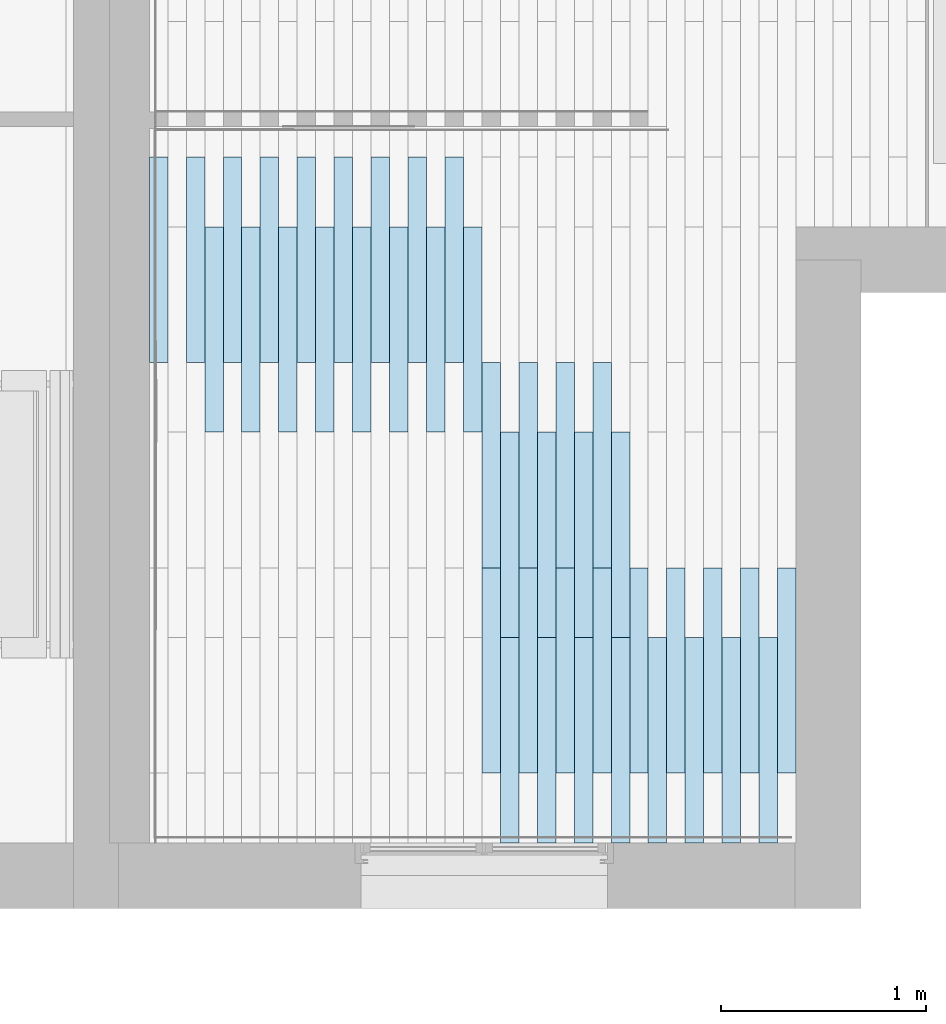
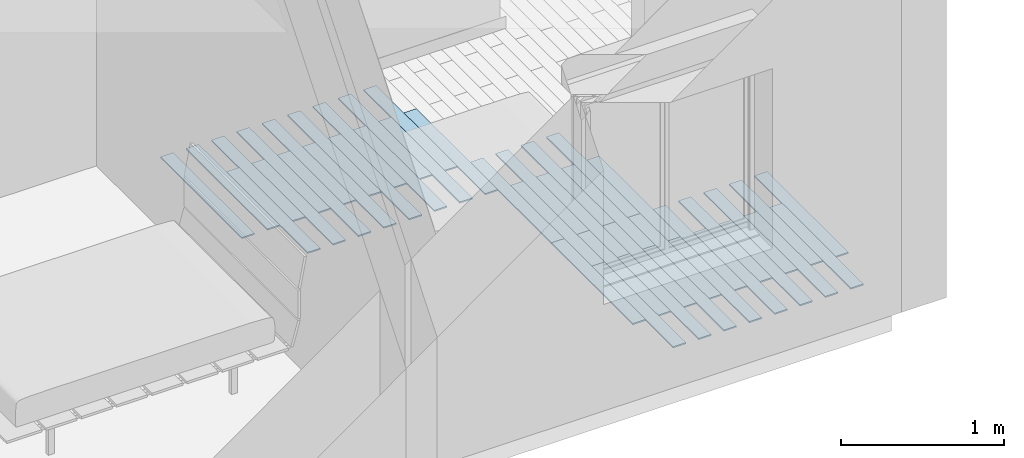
# One storey, part 2 of 61: 42 slabs.
"""IFC2X3 building model written with IfcOpenShell, lengths in metres."""

from ifc_helpers import new_model, entity, si_unit, converted_unit, derived_unit, direction, frame, frame_2d, origin, place, context, subcontext, project, spatial, rectangle, extrude, material, layer, layer_set, layer_usage, type_object, element, save


model = new_model("IFC2X3")

# Units and contexts
model_context = context("Model", 3, precision=1e-05, world=origin(), true_north=direction((6.12303176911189e-17, 1.0)))
body_context = subcontext(model_context, "Body", "Model", "MODEL_VIEW")
ifc_project = project(units=[si_unit("LENGTHUNIT", "METRE"), si_unit("AREAUNIT", "SQUARE_METRE"), si_unit("VOLUMEUNIT", "CUBIC_METRE"), converted_unit("PLANEANGLEUNIT", "DEGREE", entity("IfcRatioMeasure", 0.0174532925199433), si_unit("PLANEANGLEUNIT", "RADIAN"), dimensions=[0, 0, 0, 0, 0, 0, 0]), si_unit("MASSUNIT", "GRAM", prefix="KILO"), derived_unit("MASSDENSITYUNIT", [(si_unit("MASSUNIT", "GRAM", prefix="KILO"), 1), (si_unit("LENGTHUNIT", "METRE"), -3)]), si_unit("TIMEUNIT", "SECOND"), si_unit("FREQUENCYUNIT", "HERTZ"), si_unit("THERMODYNAMICTEMPERATUREUNIT", "DEGREE_CELSIUS"), derived_unit("THERMALTRANSMITTANCEUNIT", [(si_unit("MASSUNIT", "GRAM", prefix="KILO"), 1), (si_unit("THERMODYNAMICTEMPERATUREUNIT", "KELVIN"), -1), (si_unit("TIMEUNIT", "SECOND"), -3)]), derived_unit("VOLUMETRICFLOWRATEUNIT", [(si_unit("LENGTHUNIT", "METRE"), 3), (si_unit("TIMEUNIT", "SECOND"), -1)]), si_unit("ELECTRICCURRENTUNIT", "AMPERE"), si_unit("ELECTRICVOLTAGEUNIT", "VOLT"), si_unit("POWERUNIT", "WATT"), si_unit("FORCEUNIT", "NEWTON", prefix="KILO"), si_unit("ILLUMINANCEUNIT", "LUX"), si_unit("LUMINOUSFLUXUNIT", "LUMEN"), si_unit("LUMINOUSINTENSITYUNIT", "CANDELA"), derived_unit("USERDEFINED", [(si_unit("MASSUNIT", "GRAM", prefix="KILO"), -1), (si_unit("LENGTHUNIT", "METRE"), -2), (si_unit("TIMEUNIT", "SECOND"), 3), (si_unit("LUMINOUSFLUXUNIT", "LUMEN"), 1)]), derived_unit("LINEARVELOCITYUNIT", [(si_unit("LENGTHUNIT", "METRE"), 1), (si_unit("TIMEUNIT", "SECOND"), -1)]), si_unit("PRESSUREUNIT", "PASCAL"), derived_unit("USERDEFINED", [(si_unit("LENGTHUNIT", "METRE"), -2), (si_unit("MASSUNIT", "GRAM", prefix="KILO"), 1), (si_unit("TIMEUNIT", "SECOND"), -2)])], contexts=[model_context])

# Site, building, storey
site_placement = place(None, origin())
site = spatial("IfcSite", under=ifc_project, at=site_placement, Name="Surface", CompositionType="ELEMENT")
building_placement = place(site_placement, origin())
building = spatial("IfcBuilding", under=site, at=building_placement, CompositionType="ELEMENT")
storey_placement = place(building_placement, frame((0.0, 0.0, 2.82)))
storey = spatial("IfcBuildingStorey", under=building, at=storey_placement, Name="ETAGE", CompositionType="ELEMENT", Elevation=2.82)

# Slabs
ifc_material = material(Name="PARQUET BAMBOU")
ifc_layer = layer(ifc_material, 0.01)
ifc_layer_set = layer_set([ifc_layer], Name="Sol:LAME DE BAMBOU")
ifc_layer_usage_1 = layer_usage(ifc_layer_set, "AXIS3", "POSITIVE", 0.0)
slab_type_1 = type_object("IfcSlabType", Name="Sol:LAME DE BAMBOU", PredefinedType="FLOOR", material=ifc_layer_set)
slab_1_placement = place(storey_placement, origin())
element("IfcSlab", 1, at=slab_1_placement, inside=storey, type_object=slab_type_1, material=ifc_layer_usage_1, Name="Sol:LAME DE BAMBOU", ObjectType="Sol:LAME DE BAMBOU", PredefinedType="FLOOR", context=body_context, shape_type="SweptSolid", body=[
    extrude(rectangle(XDim=0.999999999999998, YDim=0.0899999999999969, at=frame_2d((8.68749516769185e-15, 8.66320903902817e-15), x_axis=(1.0, 0.0))), frame((84.1260898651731, 84.0875239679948, 0.05), z_axis=(0.0, 0.0, -1.0), x_axis=(0.0, 1.0, 0.0)), (0.0, 0.0, 1.0), 0.00999999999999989),
])
ifc_layer_usage_2 = layer_usage(ifc_layer_set, "AXIS3", "POSITIVE", 0.0)
slab_type_2 = type_object("IfcSlabType", Name="Sol:LAME DE BAMBOU", PredefinedType="FLOOR", material=ifc_layer_set)
slab_2_placement = place(storey_placement, origin())
element("IfcSlab", 2, at=slab_2_placement, inside=storey, type_object=slab_type_2, material=ifc_layer_usage_2, Name="Sol:LAME DE BAMBOU", ObjectType="Sol:LAME DE BAMBOU", PredefinedType="FLOOR", context=body_context, shape_type="SweptSolid", body=[
    extrude(rectangle(XDim=0.999999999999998, YDim=0.0899999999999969, at=frame_2d((8.68749516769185e-15, -8.66320903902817e-15), x_axis=(1.0, 0.0))), frame((84.2160898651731, 83.7475239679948, 0.05), z_axis=(0.0, 0.0, -1.0), x_axis=(0.0, 1.0, 0.0)), (0.0, 0.0, 1.0), 0.00999999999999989),
])
ifc_layer_usage_3 = layer_usage(ifc_layer_set, "AXIS3", "POSITIVE", 0.0)
slab_type_3 = type_object("IfcSlabType", Name="Sol:LAME DE BAMBOU", PredefinedType="FLOOR", material=ifc_layer_set)
slab_3_placement = place(storey_placement, origin())
element("IfcSlab", 3, at=slab_3_placement, inside=storey, type_object=slab_type_3, material=ifc_layer_usage_3, Name="Sol:LAME DE BAMBOU", ObjectType="Sol:LAME DE BAMBOU", PredefinedType="FLOOR", context=body_context, shape_type="SweptSolid", body=[
    extrude(rectangle(XDim=0.999999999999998, YDim=0.0899999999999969, at=frame_2d((8.68749516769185e-15, 8.66320903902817e-15), x_axis=(1.0, 0.0))), frame((84.3060898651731, 84.0875239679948, 0.05), z_axis=(0.0, 0.0, -1.0), x_axis=(0.0, 1.0, 0.0)), (0.0, 0.0, 1.0), 0.00999999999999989),
])
ifc_layer_usage_4 = layer_usage(ifc_layer_set, "AXIS3", "POSITIVE", 0.0)
slab_type_4 = type_object("IfcSlabType", Name="Sol:LAME DE BAMBOU", PredefinedType="FLOOR", material=ifc_layer_set)
slab_4_placement = place(storey_placement, origin())
element("IfcSlab", 4, at=slab_4_placement, inside=storey, type_object=slab_type_4, material=ifc_layer_usage_4, Name="Sol:LAME DE BAMBOU", ObjectType="Sol:LAME DE BAMBOU", PredefinedType="FLOOR", context=body_context, shape_type="SweptSolid", body=[
    extrude(rectangle(XDim=0.999999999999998, YDim=0.0899999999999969, at=frame_2d((8.68749516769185e-15, 8.66320903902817e-15), x_axis=(1.0, 0.0))), frame((84.3960898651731, 83.7475239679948, 0.05), z_axis=(0.0, 0.0, -1.0), x_axis=(0.0, 1.0, 0.0)), (0.0, 0.0, 1.0), 0.00999999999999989),
])
ifc_layer_usage_5 = layer_usage(ifc_layer_set, "AXIS3", "POSITIVE", 0.0)
slab_type_5 = type_object("IfcSlabType", Name="Sol:LAME DE BAMBOU", PredefinedType="FLOOR", material=ifc_layer_set)
slab_5_placement = place(storey_placement, origin())
element("IfcSlab", 5, at=slab_5_placement, inside=storey, type_object=slab_type_5, material=ifc_layer_usage_5, Name="Sol:LAME DE BAMBOU", ObjectType="Sol:LAME DE BAMBOU", PredefinedType="FLOOR", context=body_context, shape_type="SweptSolid", body=[
    extrude(rectangle(XDim=0.999999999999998, YDim=0.0899999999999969, at=frame_2d((8.68749516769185e-15, 8.66320903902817e-15), x_axis=(1.0, 0.0))), frame((84.4860898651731, 84.0875239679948, 0.05), z_axis=(0.0, 0.0, -1.0), x_axis=(0.0, 1.0, 0.0)), (0.0, 0.0, 1.0), 0.00999999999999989),
])
ifc_layer_usage_6 = layer_usage(ifc_layer_set, "AXIS3", "POSITIVE", 0.0)
slab_type_6 = type_object("IfcSlabType", Name="Sol:LAME DE BAMBOU", PredefinedType="FLOOR", material=ifc_layer_set)
slab_6_placement = place(storey_placement, origin())
element("IfcSlab", 6, at=slab_6_placement, inside=storey, type_object=slab_type_6, material=ifc_layer_usage_6, Name="Sol:LAME DE BAMBOU", ObjectType="Sol:LAME DE BAMBOU", PredefinedType="FLOOR", context=body_context, shape_type="SweptSolid", body=[
    extrude(rectangle(XDim=0.999999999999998, YDim=0.0899999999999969, at=frame_2d((8.68749516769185e-15, -8.66320903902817e-15), x_axis=(1.0, 0.0))), frame((84.5760898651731, 83.7475239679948, 0.05), z_axis=(0.0, 0.0, -1.0), x_axis=(0.0, 1.0, 0.0)), (0.0, 0.0, 1.0), 0.00999999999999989),
])
ifc_layer_usage_7 = layer_usage(ifc_layer_set, "AXIS3", "POSITIVE", 0.0)
slab_type_7 = type_object("IfcSlabType", Name="Sol:LAME DE BAMBOU", PredefinedType="FLOOR", material=ifc_layer_set)
slab_7_placement = place(storey_placement, origin())
element("IfcSlab", 7, at=slab_7_placement, inside=storey, type_object=slab_type_7, material=ifc_layer_usage_7, Name="Sol:LAME DE BAMBOU", ObjectType="Sol:LAME DE BAMBOU", PredefinedType="FLOOR", context=body_context, shape_type="SweptSolid", body=[
    extrude(rectangle(XDim=0.999999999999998, YDim=0.0899999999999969, at=frame_2d((8.68749516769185e-15, 8.66320903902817e-15), x_axis=(1.0, 0.0))), frame((84.6660898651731, 84.0875239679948, 0.05), z_axis=(0.0, 0.0, -1.0), x_axis=(0.0, 1.0, 0.0)), (0.0, 0.0, 1.0), 0.00999999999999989),
])
ifc_layer_usage_8 = layer_usage(ifc_layer_set, "AXIS3", "POSITIVE", 0.0)
slab_type_8 = type_object("IfcSlabType", Name="Sol:LAME DE BAMBOU", PredefinedType="FLOOR", material=ifc_layer_set)
slab_8_placement = place(storey_placement, origin())
element("IfcSlab", 8, at=slab_8_placement, inside=storey, type_object=slab_type_8, material=ifc_layer_usage_8, Name="Sol:LAME DE BAMBOU", ObjectType="Sol:LAME DE BAMBOU", PredefinedType="FLOOR", context=body_context, shape_type="SweptSolid", body=[
    extrude(rectangle(XDim=0.999999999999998, YDim=0.0899999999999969, at=frame_2d((8.68749516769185e-15, 8.66320903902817e-15), x_axis=(1.0, 0.0))), frame((84.7560898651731, 83.7475239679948, 0.05), z_axis=(0.0, 0.0, -1.0), x_axis=(0.0, 1.0, 0.0)), (0.0, 0.0, 1.0), 0.00999999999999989),
])
ifc_layer_usage_9 = layer_usage(ifc_layer_set, "AXIS3", "POSITIVE", 0.0)
slab_type_9 = type_object("IfcSlabType", Name="Sol:LAME DE BAMBOU", PredefinedType="FLOOR", material=ifc_layer_set)
slab_9_placement = place(storey_placement, origin())
element("IfcSlab", 9, at=slab_9_placement, inside=storey, type_object=slab_type_9, material=ifc_layer_usage_9, Name="Sol:LAME DE BAMBOU", ObjectType="Sol:LAME DE BAMBOU", PredefinedType="FLOOR", context=body_context, shape_type="SweptSolid", body=[
    extrude(rectangle(XDim=0.999999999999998, YDim=0.0899999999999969, at=frame_2d((8.68749516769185e-15, 8.66320903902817e-15), x_axis=(1.0, 0.0))), frame((84.8460898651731, 84.0875239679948, 0.05), z_axis=(0.0, 0.0, -1.0), x_axis=(0.0, 1.0, 0.0)), (0.0, 0.0, 1.0), 0.00999999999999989),
])
ifc_layer_usage_10 = layer_usage(ifc_layer_set, "AXIS3", "POSITIVE", 0.0)
slab_type_10 = type_object("IfcSlabType", Name="Sol:LAME DE BAMBOU", PredefinedType="FLOOR", material=ifc_layer_set)
slab_10_placement = place(storey_placement, origin())
element("IfcSlab", 10, at=slab_10_placement, inside=storey, type_object=slab_type_10, material=ifc_layer_usage_10, Name="Sol:LAME DE BAMBOU", ObjectType="Sol:LAME DE BAMBOU", PredefinedType="FLOOR", context=body_context, shape_type="SweptSolid", body=[
    extrude(rectangle(XDim=0.999999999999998, YDim=0.0899999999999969, at=frame_2d((8.68749516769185e-15, -8.66320903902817e-15), x_axis=(1.0, 0.0))), frame((84.9360898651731, 83.7475239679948, 0.05), z_axis=(0.0, 0.0, -1.0), x_axis=(0.0, 1.0, 0.0)), (0.0, 0.0, 1.0), 0.00999999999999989),
])
ifc_layer_usage_11 = layer_usage(ifc_layer_set, "AXIS3", "POSITIVE", 0.0)
slab_type_11 = type_object("IfcSlabType", Name="Sol:LAME DE BAMBOU", PredefinedType="FLOOR", material=ifc_layer_set)
slab_11_placement = place(storey_placement, origin())
element("IfcSlab", 11, at=slab_11_placement, inside=storey, type_object=slab_type_11, material=ifc_layer_usage_11, Name="Sol:LAME DE BAMBOU", ObjectType="Sol:LAME DE BAMBOU", PredefinedType="FLOOR", context=body_context, shape_type="SweptSolid", body=[
    extrude(rectangle(XDim=0.999999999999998, YDim=0.0899999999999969, at=frame_2d((8.68749516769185e-15, 8.66320903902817e-15), x_axis=(1.0, 0.0))), frame((85.026089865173, 84.0875239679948, 0.05), z_axis=(0.0, 0.0, -1.0), x_axis=(0.0, 1.0, 0.0)), (0.0, 0.0, 1.0), 0.00999999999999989),
])
ifc_layer_usage_12 = layer_usage(ifc_layer_set, "AXIS3", "POSITIVE", 0.0)
slab_type_12 = type_object("IfcSlabType", Name="Sol:LAME DE BAMBOU", PredefinedType="FLOOR", material=ifc_layer_set)
slab_12_placement = place(storey_placement, origin())
element("IfcSlab", 12, at=slab_12_placement, inside=storey, type_object=slab_type_12, material=ifc_layer_usage_12, Name="Sol:LAME DE BAMBOU", ObjectType="Sol:LAME DE BAMBOU", PredefinedType="FLOOR", context=body_context, shape_type="SweptSolid", body=[
    extrude(rectangle(XDim=0.999999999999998, YDim=0.0899999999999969, at=frame_2d((8.68749516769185e-15, 8.66320903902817e-15), x_axis=(1.0, 0.0))), frame((85.116089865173, 83.7475239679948, 0.05), z_axis=(0.0, 0.0, -1.0), x_axis=(0.0, 1.0, 0.0)), (0.0, 0.0, 1.0), 0.00999999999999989),
])
ifc_layer_usage_13 = layer_usage(ifc_layer_set, "AXIS3", "POSITIVE", 0.0)
slab_type_13 = type_object("IfcSlabType", Name="Sol:LAME DE BAMBOU", PredefinedType="FLOOR", material=ifc_layer_set)
slab_13_placement = place(storey_placement, origin())
element("IfcSlab", 13, at=slab_13_placement, inside=storey, type_object=slab_type_13, material=ifc_layer_usage_13, Name="Sol:LAME DE BAMBOU", ObjectType="Sol:LAME DE BAMBOU", PredefinedType="FLOOR", context=body_context, shape_type="SweptSolid", body=[
    extrude(rectangle(XDim=0.999999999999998, YDim=0.0899999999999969, at=frame_2d((8.68749516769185e-15, 8.66320903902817e-15), x_axis=(1.0, 0.0))), frame((85.206089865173, 84.0875239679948, 0.05), z_axis=(0.0, 0.0, -1.0), x_axis=(0.0, 1.0, 0.0)), (0.0, 0.0, 1.0), 0.00999999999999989),
])
ifc_layer_usage_14 = layer_usage(ifc_layer_set, "AXIS3", "POSITIVE", 0.0)
slab_type_14 = type_object("IfcSlabType", Name="Sol:LAME DE BAMBOU", PredefinedType="FLOOR", material=ifc_layer_set)
slab_14_placement = place(storey_placement, origin())
element("IfcSlab", 14, at=slab_14_placement, inside=storey, type_object=slab_type_14, material=ifc_layer_usage_14, Name="Sol:LAME DE BAMBOU", ObjectType="Sol:LAME DE BAMBOU", PredefinedType="FLOOR", context=body_context, shape_type="SweptSolid", body=[
    extrude(rectangle(XDim=0.999999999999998, YDim=0.0899999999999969, at=frame_2d((8.68749516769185e-15, -8.66320903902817e-15), x_axis=(1.0, 0.0))), frame((85.2960898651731, 83.7475239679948, 0.05), z_axis=(0.0, 0.0, -1.0), x_axis=(0.0, 1.0, 0.0)), (0.0, 0.0, 1.0), 0.00999999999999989),
])
ifc_layer_usage_15 = layer_usage(ifc_layer_set, "AXIS3", "POSITIVE", 0.0)
slab_type_15 = type_object("IfcSlabType", Name="Sol:LAME DE BAMBOU", PredefinedType="FLOOR", material=ifc_layer_set)
slab_15_placement = place(storey_placement, origin())
element("IfcSlab", 15, at=slab_15_placement, inside=storey, type_object=slab_type_15, material=ifc_layer_usage_15, Name="Sol:LAME DE BAMBOU", ObjectType="Sol:LAME DE BAMBOU", PredefinedType="FLOOR", context=body_context, shape_type="SweptSolid", body=[
    extrude(rectangle(XDim=0.999999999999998, YDim=0.0899999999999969, at=frame_2d((8.68749516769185e-15, 8.66320903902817e-15), x_axis=(1.0, 0.0))), frame((85.386089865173, 84.0875239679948, 0.05), z_axis=(0.0, 0.0, -1.0), x_axis=(0.0, 1.0, 0.0)), (0.0, 0.0, 1.0), 0.00999999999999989),
])
ifc_layer_usage_16 = layer_usage(ifc_layer_set, "AXIS3", "POSITIVE", 0.0)
slab_type_16 = type_object("IfcSlabType", Name="Sol:LAME DE BAMBOU", PredefinedType="FLOOR", material=ifc_layer_set)
slab_16_placement = place(storey_placement, origin())
element("IfcSlab", 16, at=slab_16_placement, inside=storey, type_object=slab_type_16, material=ifc_layer_usage_16, Name="Sol:LAME DE BAMBOU", ObjectType="Sol:LAME DE BAMBOU", PredefinedType="FLOOR", context=body_context, shape_type="SweptSolid", body=[
    extrude(rectangle(XDim=0.999999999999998, YDim=0.0899999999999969, at=frame_2d((8.68749516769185e-15, 8.66320903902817e-15), x_axis=(1.0, 0.0))), frame((85.476089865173, 83.7475239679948, 0.05), z_axis=(0.0, 0.0, -1.0), x_axis=(0.0, 1.0, 0.0)), (0.0, 0.0, 1.0), 0.00999999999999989),
])
ifc_layer_usage_17 = layer_usage(ifc_layer_set, "AXIS3", "POSITIVE", 0.0)
slab_type_17 = type_object("IfcSlabType", Name="Sol:LAME DE BAMBOU", PredefinedType="FLOOR", material=ifc_layer_set)
slab_17_placement = place(storey_placement, origin())
element("IfcSlab", 17, at=slab_17_placement, inside=storey, type_object=slab_type_17, material=ifc_layer_usage_17, Name="Sol:LAME DE BAMBOU", ObjectType="Sol:LAME DE BAMBOU", PredefinedType="FLOOR", context=body_context, shape_type="SweptSolid", body=[
    extrude(rectangle(XDim=0.999999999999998, YDim=0.0899999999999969, at=frame_2d((8.68749516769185e-15, 8.66320903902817e-15), x_axis=(1.0, 0.0))), frame((85.566089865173, 82.0875239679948, 0.05), z_axis=(0.0, 0.0, -1.0), x_axis=(0.0, 1.0, 0.0)), (0.0, 0.0, 1.0), 0.00999999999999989),
])
ifc_layer_usage_18 = layer_usage(ifc_layer_set, "AXIS3", "POSITIVE", 0.0)
slab_type_18 = type_object("IfcSlabType", Name="Sol:LAME DE BAMBOU", PredefinedType="FLOOR", material=ifc_layer_set)
slab_18_placement = place(storey_placement, origin())
element("IfcSlab", 18, at=slab_18_placement, inside=storey, type_object=slab_type_18, material=ifc_layer_usage_18, Name="Sol:LAME DE BAMBOU", ObjectType="Sol:LAME DE BAMBOU", PredefinedType="FLOOR", context=body_context, shape_type="SweptSolid", body=[
    extrude(rectangle(XDim=0.999999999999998, YDim=0.0899999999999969, at=frame_2d((-8.68749516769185e-15, 8.66320903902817e-15), x_axis=(1.0, 0.0))), frame((85.566089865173, 83.0875239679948, 0.05), z_axis=(0.0, 0.0, -1.0), x_axis=(0.0, 1.0, 0.0)), (0.0, 0.0, 1.0), 0.00999999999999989),
])
ifc_layer_usage_19 = layer_usage(ifc_layer_set, "AXIS3", "POSITIVE", 0.0)
slab_type_19 = type_object("IfcSlabType", Name="Sol:LAME DE BAMBOU", PredefinedType="FLOOR", material=ifc_layer_set)
slab_19_placement = place(storey_placement, origin())
element("IfcSlab", 19, at=slab_19_placement, inside=storey, type_object=slab_type_19, material=ifc_layer_usage_19, Name="Sol:LAME DE BAMBOU", ObjectType="Sol:LAME DE BAMBOU", PredefinedType="FLOOR", context=body_context, shape_type="SweptSolid", body=[
    extrude(rectangle(XDim=0.999999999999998, YDim=0.0899999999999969, at=frame_2d((8.68749516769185e-15, -8.66320903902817e-15), x_axis=(1.0, 0.0))), frame((85.656089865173, 81.7475239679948, 0.05), z_axis=(0.0, 0.0, -1.0), x_axis=(0.0, 1.0, 0.0)), (0.0, 0.0, 1.0), 0.00999999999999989),
])
ifc_layer_usage_20 = layer_usage(ifc_layer_set, "AXIS3", "POSITIVE", 0.0)
slab_type_20 = type_object("IfcSlabType", Name="Sol:LAME DE BAMBOU", PredefinedType="FLOOR", material=ifc_layer_set)
slab_20_placement = place(storey_placement, origin())
element("IfcSlab", 20, at=slab_20_placement, inside=storey, type_object=slab_type_20, material=ifc_layer_usage_20, Name="Sol:LAME DE BAMBOU", ObjectType="Sol:LAME DE BAMBOU", PredefinedType="FLOOR", context=body_context, shape_type="SweptSolid", body=[
    extrude(rectangle(XDim=0.999999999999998, YDim=0.0899999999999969, at=frame_2d((-8.68749516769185e-15, -8.66320903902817e-15), x_axis=(1.0, 0.0))), frame((85.656089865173, 82.7475239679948, 0.05), z_axis=(0.0, 0.0, -1.0), x_axis=(0.0, 1.0, 0.0)), (0.0, 0.0, 1.0), 0.00999999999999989),
])
ifc_layer_usage_21 = layer_usage(ifc_layer_set, "AXIS3", "POSITIVE", 0.0)
slab_type_21 = type_object("IfcSlabType", Name="Sol:LAME DE BAMBOU", PredefinedType="FLOOR", material=ifc_layer_set)
slab_21_placement = place(storey_placement, origin())
element("IfcSlab", 21, at=slab_21_placement, inside=storey, type_object=slab_type_21, material=ifc_layer_usage_21, Name="Sol:LAME DE BAMBOU", ObjectType="Sol:LAME DE BAMBOU", PredefinedType="FLOOR", context=body_context, shape_type="SweptSolid", body=[
    extrude(rectangle(XDim=0.999999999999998, YDim=0.0899999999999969, at=frame_2d((8.68749516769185e-15, 8.66320903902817e-15), x_axis=(1.0, 0.0))), frame((85.746089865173, 82.0875239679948, 0.05), z_axis=(0.0, 0.0, -1.0), x_axis=(0.0, 1.0, 0.0)), (0.0, 0.0, 1.0), 0.00999999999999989),
])
ifc_layer_usage_22 = layer_usage(ifc_layer_set, "AXIS3", "POSITIVE", 0.0)
slab_type_22 = type_object("IfcSlabType", Name="Sol:LAME DE BAMBOU", PredefinedType="FLOOR", material=ifc_layer_set)
slab_22_placement = place(storey_placement, origin())
element("IfcSlab", 22, at=slab_22_placement, inside=storey, type_object=slab_type_22, material=ifc_layer_usage_22, Name="Sol:LAME DE BAMBOU", ObjectType="Sol:LAME DE BAMBOU", PredefinedType="FLOOR", context=body_context, shape_type="SweptSolid", body=[
    extrude(rectangle(XDim=0.999999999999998, YDim=0.0899999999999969, at=frame_2d((-8.68749516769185e-15, 8.66320903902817e-15), x_axis=(1.0, 0.0))), frame((85.746089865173, 83.0875239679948, 0.05), z_axis=(0.0, 0.0, -1.0), x_axis=(0.0, 1.0, 0.0)), (0.0, 0.0, 1.0), 0.00999999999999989),
])
ifc_layer_usage_23 = layer_usage(ifc_layer_set, "AXIS3", "POSITIVE", 0.0)
slab_type_23 = type_object("IfcSlabType", Name="Sol:LAME DE BAMBOU", PredefinedType="FLOOR", material=ifc_layer_set)
slab_23_placement = place(storey_placement, origin())
element("IfcSlab", 23, at=slab_23_placement, inside=storey, type_object=slab_type_23, material=ifc_layer_usage_23, Name="Sol:LAME DE BAMBOU", ObjectType="Sol:LAME DE BAMBOU", PredefinedType="FLOOR", context=body_context, shape_type="SweptSolid", body=[
    extrude(rectangle(XDim=0.999999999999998, YDim=0.0899999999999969, at=frame_2d((8.68749516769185e-15, 8.66320903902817e-15), x_axis=(1.0, 0.0))), frame((85.836089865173, 81.7475239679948, 0.05), z_axis=(0.0, 0.0, -1.0), x_axis=(0.0, 1.0, 0.0)), (0.0, 0.0, 1.0), 0.00999999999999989),
])
ifc_layer_usage_24 = layer_usage(ifc_layer_set, "AXIS3", "POSITIVE", 0.0)
slab_type_24 = type_object("IfcSlabType", Name="Sol:LAME DE BAMBOU", PredefinedType="FLOOR", material=ifc_layer_set)
slab_24_placement = place(storey_placement, origin())
element("IfcSlab", 24, at=slab_24_placement, inside=storey, type_object=slab_type_24, material=ifc_layer_usage_24, Name="Sol:LAME DE BAMBOU", ObjectType="Sol:LAME DE BAMBOU", PredefinedType="FLOOR", context=body_context, shape_type="SweptSolid", body=[
    extrude(rectangle(XDim=0.999999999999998, YDim=0.0899999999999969, at=frame_2d((-8.68749516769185e-15, 8.66320903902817e-15), x_axis=(1.0, 0.0))), frame((85.836089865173, 82.7475239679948, 0.05), z_axis=(0.0, 0.0, -1.0), x_axis=(0.0, 1.0, 0.0)), (0.0, 0.0, 1.0), 0.00999999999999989),
])
ifc_layer_usage_25 = layer_usage(ifc_layer_set, "AXIS3", "POSITIVE", 0.0)
slab_type_25 = type_object("IfcSlabType", Name="Sol:LAME DE BAMBOU", PredefinedType="FLOOR", material=ifc_layer_set)
slab_25_placement = place(storey_placement, origin())
element("IfcSlab", 25, at=slab_25_placement, inside=storey, type_object=slab_type_25, material=ifc_layer_usage_25, Name="Sol:LAME DE BAMBOU", ObjectType="Sol:LAME DE BAMBOU", PredefinedType="FLOOR", context=body_context, shape_type="SweptSolid", body=[
    extrude(rectangle(XDim=0.999999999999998, YDim=0.0899999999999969, at=frame_2d((8.68749516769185e-15, 8.66320903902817e-15), x_axis=(1.0, 0.0))), frame((85.926089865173, 82.0875239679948, 0.05), z_axis=(0.0, 0.0, -1.0), x_axis=(0.0, 1.0, 0.0)), (0.0, 0.0, 1.0), 0.00999999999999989),
])
ifc_layer_usage_26 = layer_usage(ifc_layer_set, "AXIS3", "POSITIVE", 0.0)
slab_type_26 = type_object("IfcSlabType", Name="Sol:LAME DE BAMBOU", PredefinedType="FLOOR", material=ifc_layer_set)
slab_26_placement = place(storey_placement, origin())
element("IfcSlab", 26, at=slab_26_placement, inside=storey, type_object=slab_type_26, material=ifc_layer_usage_26, Name="Sol:LAME DE BAMBOU", ObjectType="Sol:LAME DE BAMBOU", PredefinedType="FLOOR", context=body_context, shape_type="SweptSolid", body=[
    extrude(rectangle(XDim=0.999999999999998, YDim=0.0899999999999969, at=frame_2d((-8.68749516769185e-15, 8.66320903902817e-15), x_axis=(1.0, 0.0))), frame((85.926089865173, 83.0875239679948, 0.05), z_axis=(0.0, 0.0, -1.0), x_axis=(0.0, 1.0, 0.0)), (0.0, 0.0, 1.0), 0.00999999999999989),
])
ifc_layer_usage_27 = layer_usage(ifc_layer_set, "AXIS3", "POSITIVE", 0.0)
slab_type_27 = type_object("IfcSlabType", Name="Sol:LAME DE BAMBOU", PredefinedType="FLOOR", material=ifc_layer_set)
slab_27_placement = place(storey_placement, origin())
element("IfcSlab", 27, at=slab_27_placement, inside=storey, type_object=slab_type_27, material=ifc_layer_usage_27, Name="Sol:LAME DE BAMBOU", ObjectType="Sol:LAME DE BAMBOU", PredefinedType="FLOOR", context=body_context, shape_type="SweptSolid", body=[
    extrude(rectangle(XDim=0.999999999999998, YDim=0.0899999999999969, at=frame_2d((8.68749516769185e-15, -8.66320903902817e-15), x_axis=(1.0, 0.0))), frame((86.016089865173, 81.7475239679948, 0.05), z_axis=(0.0, 0.0, -1.0), x_axis=(0.0, 1.0, 0.0)), (0.0, 0.0, 1.0), 0.00999999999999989),
])
ifc_layer_usage_28 = layer_usage(ifc_layer_set, "AXIS3", "POSITIVE", 0.0)
slab_type_28 = type_object("IfcSlabType", Name="Sol:LAME DE BAMBOU", PredefinedType="FLOOR", material=ifc_layer_set)
slab_28_placement = place(storey_placement, origin())
element("IfcSlab", 28, at=slab_28_placement, inside=storey, type_object=slab_type_28, material=ifc_layer_usage_28, Name="Sol:LAME DE BAMBOU", ObjectType="Sol:LAME DE BAMBOU", PredefinedType="FLOOR", context=body_context, shape_type="SweptSolid", body=[
    extrude(rectangle(XDim=0.999999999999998, YDim=0.0899999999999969, at=frame_2d((-8.68749516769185e-15, -8.66320903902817e-15), x_axis=(1.0, 0.0))), frame((86.016089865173, 82.7475239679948, 0.05), z_axis=(0.0, 0.0, -1.0), x_axis=(0.0, 1.0, 0.0)), (0.0, 0.0, 1.0), 0.00999999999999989),
])
ifc_layer_usage_29 = layer_usage(ifc_layer_set, "AXIS3", "POSITIVE", 0.0)
slab_type_29 = type_object("IfcSlabType", Name="Sol:LAME DE BAMBOU", PredefinedType="FLOOR", material=ifc_layer_set)
slab_29_placement = place(storey_placement, origin())
element("IfcSlab", 29, at=slab_29_placement, inside=storey, type_object=slab_type_29, material=ifc_layer_usage_29, Name="Sol:LAME DE BAMBOU", ObjectType="Sol:LAME DE BAMBOU", PredefinedType="FLOOR", context=body_context, shape_type="SweptSolid", body=[
    extrude(rectangle(XDim=0.999999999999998, YDim=0.0899999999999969, at=frame_2d((8.68749516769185e-15, 8.66320903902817e-15), x_axis=(1.0, 0.0))), frame((86.106089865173, 82.0875239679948, 0.05), z_axis=(0.0, 0.0, -1.0), x_axis=(0.0, 1.0, 0.0)), (0.0, 0.0, 1.0), 0.00999999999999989),
])
ifc_layer_usage_30 = layer_usage(ifc_layer_set, "AXIS3", "POSITIVE", 0.0)
slab_type_30 = type_object("IfcSlabType", Name="Sol:LAME DE BAMBOU", PredefinedType="FLOOR", material=ifc_layer_set)
slab_30_placement = place(storey_placement, origin())
element("IfcSlab", 30, at=slab_30_placement, inside=storey, type_object=slab_type_30, material=ifc_layer_usage_30, Name="Sol:LAME DE BAMBOU", ObjectType="Sol:LAME DE BAMBOU", PredefinedType="FLOOR", context=body_context, shape_type="SweptSolid", body=[
    extrude(rectangle(XDim=0.999999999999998, YDim=0.0899999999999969, at=frame_2d((-8.68749516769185e-15, 8.66320903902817e-15), x_axis=(1.0, 0.0))), frame((86.106089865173, 83.0875239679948, 0.05), z_axis=(0.0, 0.0, -1.0), x_axis=(0.0, 1.0, 0.0)), (0.0, 0.0, 1.0), 0.00999999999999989),
])
ifc_layer_usage_31 = layer_usage(ifc_layer_set, "AXIS3", "POSITIVE", 0.0)
slab_type_31 = type_object("IfcSlabType", Name="Sol:LAME DE BAMBOU", PredefinedType="FLOOR", material=ifc_layer_set)
slab_31_placement = place(storey_placement, origin())
element("IfcSlab", 31, at=slab_31_placement, inside=storey, type_object=slab_type_31, material=ifc_layer_usage_31, Name="Sol:LAME DE BAMBOU", ObjectType="Sol:LAME DE BAMBOU", PredefinedType="FLOOR", context=body_context, shape_type="SweptSolid", body=[
    extrude(rectangle(XDim=0.999999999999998, YDim=0.0899999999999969, at=frame_2d((8.68749516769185e-15, 8.66320903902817e-15), x_axis=(1.0, 0.0))), frame((86.196089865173, 81.7475239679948, 0.05), z_axis=(0.0, 0.0, -1.0), x_axis=(0.0, 1.0, 0.0)), (0.0, 0.0, 1.0), 0.00999999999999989),
])
ifc_layer_usage_32 = layer_usage(ifc_layer_set, "AXIS3", "POSITIVE", 0.0)
slab_type_32 = type_object("IfcSlabType", Name="Sol:LAME DE BAMBOU", PredefinedType="FLOOR", material=ifc_layer_set)
slab_32_placement = place(storey_placement, origin())
element("IfcSlab", 32, at=slab_32_placement, inside=storey, type_object=slab_type_32, material=ifc_layer_usage_32, Name="Sol:LAME DE BAMBOU", ObjectType="Sol:LAME DE BAMBOU", PredefinedType="FLOOR", context=body_context, shape_type="SweptSolid", body=[
    extrude(rectangle(XDim=0.999999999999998, YDim=0.0899999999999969, at=frame_2d((-8.68749516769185e-15, 8.66320903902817e-15), x_axis=(1.0, 0.0))), frame((86.196089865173, 82.7475239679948, 0.05), z_axis=(0.0, 0.0, -1.0), x_axis=(0.0, 1.0, 0.0)), (0.0, 0.0, 1.0), 0.00999999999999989),
])
ifc_layer_usage_33 = layer_usage(ifc_layer_set, "AXIS3", "POSITIVE", 0.0)
slab_type_33 = type_object("IfcSlabType", Name="Sol:LAME DE BAMBOU", PredefinedType="FLOOR", material=ifc_layer_set)
slab_33_placement = place(storey_placement, origin())
element("IfcSlab", 33, at=slab_33_placement, inside=storey, type_object=slab_type_33, material=ifc_layer_usage_33, Name="Sol:LAME DE BAMBOU", ObjectType="Sol:LAME DE BAMBOU", PredefinedType="FLOOR", context=body_context, shape_type="SweptSolid", body=[
    extrude(rectangle(XDim=0.999999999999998, YDim=0.0899999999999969, at=frame_2d((8.68749516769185e-15, 8.66320903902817e-15), x_axis=(1.0, 0.0))), frame((86.286089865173, 82.0875239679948, 0.05), z_axis=(0.0, 0.0, -1.0), x_axis=(0.0, 1.0, 0.0)), (0.0, 0.0, 1.0), 0.00999999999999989),
])
ifc_layer_usage_34 = layer_usage(ifc_layer_set, "AXIS3", "POSITIVE", 0.0)
slab_type_34 = type_object("IfcSlabType", Name="Sol:LAME DE BAMBOU", PredefinedType="FLOOR", material=ifc_layer_set)
slab_34_placement = place(storey_placement, origin())
element("IfcSlab", 34, at=slab_34_placement, inside=storey, type_object=slab_type_34, material=ifc_layer_usage_34, Name="Sol:LAME DE BAMBOU", ObjectType="Sol:LAME DE BAMBOU", PredefinedType="FLOOR", context=body_context, shape_type="SweptSolid", body=[
    extrude(rectangle(XDim=0.999999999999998, YDim=0.0899999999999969, at=frame_2d((8.68749516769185e-15, -8.66320903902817e-15), x_axis=(1.0, 0.0))), frame((86.376089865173, 81.7475239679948, 0.05), z_axis=(0.0, 0.0, -1.0), x_axis=(0.0, 1.0, 0.0)), (0.0, 0.0, 1.0), 0.00999999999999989),
])
ifc_layer_usage_35 = layer_usage(ifc_layer_set, "AXIS3", "POSITIVE", 0.0)
slab_type_35 = type_object("IfcSlabType", Name="Sol:LAME DE BAMBOU", PredefinedType="FLOOR", material=ifc_layer_set)
slab_35_placement = place(storey_placement, origin())
element("IfcSlab", 35, at=slab_35_placement, inside=storey, type_object=slab_type_35, material=ifc_layer_usage_35, Name="Sol:LAME DE BAMBOU", ObjectType="Sol:LAME DE BAMBOU", PredefinedType="FLOOR", context=body_context, shape_type="SweptSolid", body=[
    extrude(rectangle(XDim=0.999999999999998, YDim=0.0899999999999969, at=frame_2d((8.68749516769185e-15, 8.66320903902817e-15), x_axis=(1.0, 0.0))), frame((86.466089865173, 82.0875239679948, 0.05), z_axis=(0.0, 0.0, -1.0), x_axis=(0.0, 1.0, 0.0)), (0.0, 0.0, 1.0), 0.00999999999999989),
])
ifc_layer_usage_36 = layer_usage(ifc_layer_set, "AXIS3", "POSITIVE", 0.0)
slab_type_36 = type_object("IfcSlabType", Name="Sol:LAME DE BAMBOU", PredefinedType="FLOOR", material=ifc_layer_set)
slab_36_placement = place(storey_placement, origin())
element("IfcSlab", 36, at=slab_36_placement, inside=storey, type_object=slab_type_36, material=ifc_layer_usage_36, Name="Sol:LAME DE BAMBOU", ObjectType="Sol:LAME DE BAMBOU", PredefinedType="FLOOR", context=body_context, shape_type="SweptSolid", body=[
    extrude(rectangle(XDim=0.999999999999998, YDim=0.0899999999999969, at=frame_2d((8.68749516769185e-15, 8.66320903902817e-15), x_axis=(1.0, 0.0))), frame((86.556089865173, 81.7475239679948, 0.05), z_axis=(0.0, 0.0, -1.0), x_axis=(0.0, 1.0, 0.0)), (0.0, 0.0, 1.0), 0.00999999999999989),
])
ifc_layer_usage_37 = layer_usage(ifc_layer_set, "AXIS3", "POSITIVE", 0.0)
slab_type_37 = type_object("IfcSlabType", Name="Sol:LAME DE BAMBOU", PredefinedType="FLOOR", material=ifc_layer_set)
slab_37_placement = place(storey_placement, origin())
element("IfcSlab", 37, at=slab_37_placement, inside=storey, type_object=slab_type_37, material=ifc_layer_usage_37, Name="Sol:LAME DE BAMBOU", ObjectType="Sol:LAME DE BAMBOU", PredefinedType="FLOOR", context=body_context, shape_type="SweptSolid", body=[
    extrude(rectangle(XDim=0.999999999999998, YDim=0.0899999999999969, at=frame_2d((8.68749516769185e-15, 8.66320903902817e-15), x_axis=(1.0, 0.0))), frame((86.646089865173, 82.0875239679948, 0.05), z_axis=(0.0, 0.0, -1.0), x_axis=(0.0, 1.0, 0.0)), (0.0, 0.0, 1.0), 0.00999999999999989),
])
ifc_layer_usage_38 = layer_usage(ifc_layer_set, "AXIS3", "POSITIVE", 0.0)
slab_type_38 = type_object("IfcSlabType", Name="Sol:LAME DE BAMBOU", PredefinedType="FLOOR", material=ifc_layer_set)
slab_38_placement = place(storey_placement, origin())
element("IfcSlab", 38, at=slab_38_placement, inside=storey, type_object=slab_type_38, material=ifc_layer_usage_38, Name="Sol:LAME DE BAMBOU", ObjectType="Sol:LAME DE BAMBOU", PredefinedType="FLOOR", context=body_context, shape_type="SweptSolid", body=[
    extrude(rectangle(XDim=0.999999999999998, YDim=0.0899999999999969, at=frame_2d((8.68749516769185e-15, -8.66320903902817e-15), x_axis=(1.0, 0.0))), frame((86.736089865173, 81.7475239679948, 0.05), z_axis=(0.0, 0.0, -1.0), x_axis=(0.0, 1.0, 0.0)), (0.0, 0.0, 1.0), 0.00999999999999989),
])
ifc_layer_usage_39 = layer_usage(ifc_layer_set, "AXIS3", "POSITIVE", 0.0)
slab_type_39 = type_object("IfcSlabType", Name="Sol:LAME DE BAMBOU", PredefinedType="FLOOR", material=ifc_layer_set)
slab_39_placement = place(storey_placement, origin())
element("IfcSlab", 39, at=slab_39_placement, inside=storey, type_object=slab_type_39, material=ifc_layer_usage_39, Name="Sol:LAME DE BAMBOU", ObjectType="Sol:LAME DE BAMBOU", PredefinedType="FLOOR", context=body_context, shape_type="SweptSolid", body=[
    extrude(rectangle(XDim=0.999999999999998, YDim=0.0899999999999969, at=frame_2d((8.68749516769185e-15, 8.66320903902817e-15), x_axis=(1.0, 0.0))), frame((86.826089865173, 82.0875239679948, 0.05), z_axis=(0.0, 0.0, -1.0), x_axis=(0.0, 1.0, 0.0)), (0.0, 0.0, 1.0), 0.00999999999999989),
])
ifc_layer_usage_40 = layer_usage(ifc_layer_set, "AXIS3", "POSITIVE", 0.0)
slab_type_40 = type_object("IfcSlabType", Name="Sol:LAME DE BAMBOU", PredefinedType="FLOOR", material=ifc_layer_set)
slab_40_placement = place(storey_placement, origin())
element("IfcSlab", 40, at=slab_40_placement, inside=storey, type_object=slab_type_40, material=ifc_layer_usage_40, Name="Sol:LAME DE BAMBOU", ObjectType="Sol:LAME DE BAMBOU", PredefinedType="FLOOR", context=body_context, shape_type="SweptSolid", body=[
    extrude(rectangle(XDim=0.999999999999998, YDim=0.0899999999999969, at=frame_2d((8.68749516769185e-15, 8.66320903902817e-15), x_axis=(1.0, 0.0))), frame((86.916089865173, 81.7475239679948, 0.05), z_axis=(0.0, 0.0, -1.0), x_axis=(0.0, 1.0, 0.0)), (0.0, 0.0, 1.0), 0.00999999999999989),
])
ifc_layer_usage_41 = layer_usage(ifc_layer_set, "AXIS3", "POSITIVE", 0.0)
slab_type_41 = type_object("IfcSlabType", Name="Sol:LAME DE BAMBOU", PredefinedType="FLOOR", material=ifc_layer_set)
slab_41_placement = place(storey_placement, origin())
element("IfcSlab", 41, at=slab_41_placement, inside=storey, type_object=slab_type_41, material=ifc_layer_usage_41, Name="Sol:LAME DE BAMBOU", ObjectType="Sol:LAME DE BAMBOU", PredefinedType="FLOOR", context=body_context, shape_type="SweptSolid", body=[
    extrude(rectangle(XDim=0.999999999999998, YDim=0.0899999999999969, at=frame_2d((8.68749516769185e-15, 8.66320903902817e-15), x_axis=(1.0, 0.0))), frame((87.006089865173, 82.0875239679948, 0.05), z_axis=(0.0, 0.0, -1.0), x_axis=(0.0, 1.0, 0.0)), (0.0, 0.0, 1.0), 0.00999999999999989),
])
ifc_layer_usage_42 = layer_usage(ifc_layer_set, "AXIS3", "POSITIVE", 0.0)
slab_type_42 = type_object("IfcSlabType", Name="Sol:LAME DE BAMBOU", PredefinedType="FLOOR", material=ifc_layer_set)
slab_42_placement = place(storey_placement, origin())
element("IfcSlab", 42, at=slab_42_placement, inside=storey, type_object=slab_type_42, material=ifc_layer_usage_42, Name="Sol:LAME DE BAMBOU", ObjectType="Sol:LAME DE BAMBOU", PredefinedType="FLOOR", context=body_context, shape_type="SweptSolid", body=[
    extrude(rectangle(XDim=0.999999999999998, YDim=0.0899999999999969, at=frame_2d((8.68749516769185e-15, 8.66320903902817e-15), x_axis=(1.0, 0.0))), frame((83.9460898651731, 84.0875239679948, 0.05), z_axis=(0.0, 0.0, -1.0), x_axis=(0.0, 1.0, 0.0)), (0.0, 0.0, 1.0), 0.00999999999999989),
])

save(model, "model.ifc")
